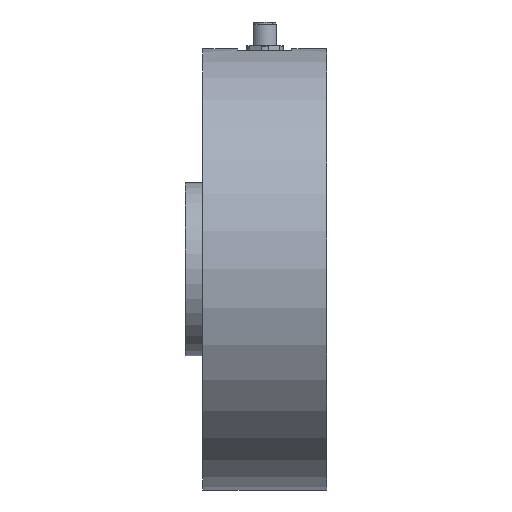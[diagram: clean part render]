
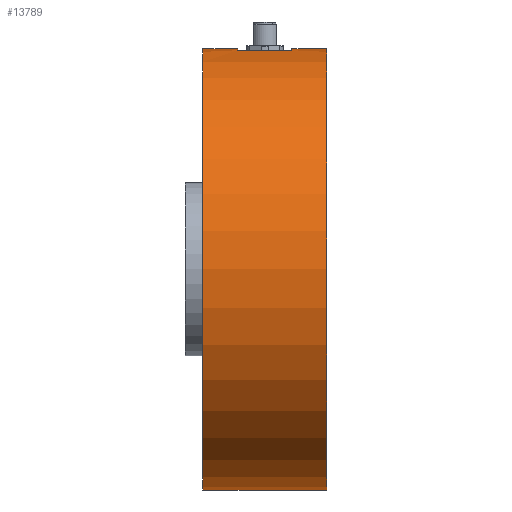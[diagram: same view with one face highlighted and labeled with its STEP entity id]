
A CAD part, left-side view. The second image highlights one B-rep face of the part: STEP entity #13789.
In plain terms, the highlighted cylindrical face has radius 101.5 mm (diameter 203 mm), a partial arc.
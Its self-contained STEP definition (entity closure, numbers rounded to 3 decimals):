
#49 = CARTESIAN_POINT ( 'NONE',  ( 0., 57., 101.5 ) ) ;
#229 = DIRECTION ( 'NONE',  ( 0., -1., 0. ) ) ;
#435 = CIRCLE ( 'NONE', #13608, 101.5 ) ;
#556 = CARTESIAN_POINT ( 'NONE',  ( 0., 0., 101.5 ) ) ;
#1162 = CARTESIAN_POINT ( 'NONE',  ( 0., 57., -101.5 ) ) ;
#1340 = CARTESIAN_POINT ( 'NONE',  ( -12.5, 16., 100.727 ) ) ;
#1395 = DIRECTION ( 'NONE',  ( 0., 0., -1. ) ) ;
#1473 = CARTESIAN_POINT ( 'NONE',  ( 0., 0., 0. ) ) ;
#1970 = ORIENTED_EDGE ( 'NONE', *, *, #7550, .T. ) ;
#1973 = AXIS2_PLACEMENT_3D ( 'NONE', #4018, #229, #1395 ) ;
#2061 = CARTESIAN_POINT ( 'NONE',  ( -12.5, 41., 100.727 ) ) ;
#2088 = DIRECTION ( 'NONE',  ( 0., 0., 1. ) ) ;
#2238 = CIRCLE ( 'NONE', #1973, 101.5 ) ;
#2284 = EDGE_CURVE ( 'NONE', #14806, #4928, #2238, .T. ) ;
#2542 = VERTEX_POINT ( 'NONE', #2061 ) ;
#2577 = CARTESIAN_POINT ( 'NONE',  ( 0., 57., 101.5 ) ) ;
#2828 = ORIENTED_EDGE ( 'NONE', *, *, #12267, .T. ) ;
#3008 = AXIS2_PLACEMENT_3D ( 'NONE', #14390, #9157, #5305 ) ;
#3183 = DIRECTION ( 'NONE',  ( 0., -1., 0. ) ) ;
#3729 = EDGE_CURVE ( 'NONE', #15853, #15161, #11505, .T. ) ;
#3825 = AXIS2_PLACEMENT_3D ( 'NONE', #4481, #9612, #6689 ) ;
#4018 = CARTESIAN_POINT ( 'NONE',  ( 0., 16., 0. ) ) ;
#4481 = CARTESIAN_POINT ( 'NONE',  ( 0., 57., 0. ) ) ;
#4795 = LINE ( 'NONE', #1162, #8517 ) ;
#4928 = VERTEX_POINT ( 'NONE', #1340 ) ;
#5305 = DIRECTION ( 'NONE',  ( 0., 0., 1. ) ) ;
#5715 = LINE ( 'NONE', #10843, #14069 ) ;
#5753 = FACE_OUTER_BOUND ( 'NONE', #11234, .T. ) ;
#5774 = CARTESIAN_POINT ( 'NONE',  ( -12.5, 57., 100.727 ) ) ;
#6464 = DIRECTION ( 'NONE',  ( 0., -1., 0. ) ) ;
#6619 = DIRECTION ( 'NONE',  ( 0., 0., 1. ) ) ;
#6689 = DIRECTION ( 'NONE',  ( 0., 0., -1. ) ) ;
#7193 = ORIENTED_EDGE ( 'NONE', *, *, #16160, .T. ) ;
#7401 = DIRECTION ( 'NONE',  ( 0., 1., 0. ) ) ;
#7550 = EDGE_CURVE ( 'NONE', #12838, #14384, #14345, .T. ) ;
#7853 = CARTESIAN_POINT ( 'NONE',  ( 0., 41., 101.5 ) ) ;
#8427 = AXIS2_PLACEMENT_3D ( 'NONE', #1473, #13013, #6619 ) ;
#8517 = VECTOR ( 'NONE', #9925, 1000. ) ;
#9004 = ORIENTED_EDGE ( 'NONE', *, *, #11239, .T. ) ;
#9157 = DIRECTION ( 'NONE',  ( 0., 1., 0. ) ) ;
#9454 = EDGE_CURVE ( 'NONE', #14806, #14384, #5715, .T. ) ;
#9612 = DIRECTION ( 'NONE',  ( 0., -1., 0. ) ) ;
#9925 = DIRECTION ( 'NONE',  ( 0., -1., 0. ) ) ;
#10169 = CARTESIAN_POINT ( 'NONE',  ( 0., 41., 0. ) ) ;
#10362 = VERTEX_POINT ( 'NONE', #10500 ) ;
#10500 = CARTESIAN_POINT ( 'NONE',  ( 0., 57., -101.5 ) ) ;
#10843 = CARTESIAN_POINT ( 'NONE',  ( 0., 57., 101.5 ) ) ;
#10939 = ORIENTED_EDGE ( 'NONE', *, *, #3729, .F. ) ;
#11234 = EDGE_LOOP ( 'NONE', ( #10939, #11854, #2828, #1970, #13824, #16328, #7193, #9004 ) ) ;
#11239 = EDGE_CURVE ( 'NONE', #2542, #15161, #435, .T. ) ;
#11505 = LINE ( 'NONE', #2577, #16314 ) ;
#11854 = ORIENTED_EDGE ( 'NONE', *, *, #13918, .F. ) ;
#11897 = CYLINDRICAL_SURFACE ( 'NONE', #3825, 101.5 ) ;
#11994 = DIRECTION ( 'NONE',  ( 0., 1., 0. ) ) ;
#12069 = VECTOR ( 'NONE', #11994, 1000. ) ;
#12163 = LINE ( 'NONE', #5774, #12069 ) ;
#12249 = CARTESIAN_POINT ( 'NONE',  ( 0., 0., -101.5 ) ) ;
#12267 = EDGE_CURVE ( 'NONE', #10362, #12838, #4795, .T. ) ;
#12838 = VERTEX_POINT ( 'NONE', #12249 ) ;
#13013 = DIRECTION ( 'NONE',  ( 0., 1., 0. ) ) ;
#13608 = AXIS2_PLACEMENT_3D ( 'NONE', #10169, #7401, #2088 ) ;
#13789 = ADVANCED_FACE ( 'NONE', ( #5753 ), #11897, .T. ) ;
#13824 = ORIENTED_EDGE ( 'NONE', *, *, #9454, .F. ) ;
#13918 = EDGE_CURVE ( 'NONE', #10362, #15853, #16450, .T. ) ;
#14069 = VECTOR ( 'NONE', #3183, 1000. ) ;
#14269 = CARTESIAN_POINT ( 'NONE',  ( 0., 16., 101.5 ) ) ;
#14345 = CIRCLE ( 'NONE', #8427, 101.5 ) ;
#14384 = VERTEX_POINT ( 'NONE', #556 ) ;
#14390 = CARTESIAN_POINT ( 'NONE',  ( 0., 57., 0. ) ) ;
#14806 = VERTEX_POINT ( 'NONE', #14269 ) ;
#15161 = VERTEX_POINT ( 'NONE', #7853 ) ;
#15853 = VERTEX_POINT ( 'NONE', #49 ) ;
#16160 = EDGE_CURVE ( 'NONE', #4928, #2542, #12163, .T. ) ;
#16314 = VECTOR ( 'NONE', #6464, 1000. ) ;
#16328 = ORIENTED_EDGE ( 'NONE', *, *, #2284, .T. ) ;
#16450 = CIRCLE ( 'NONE', #3008, 101.5 ) ;
